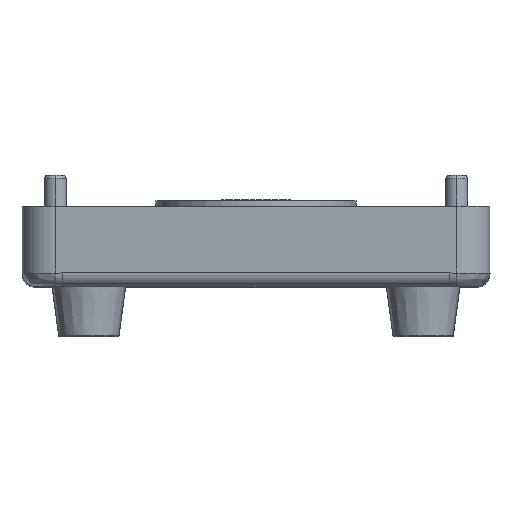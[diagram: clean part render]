
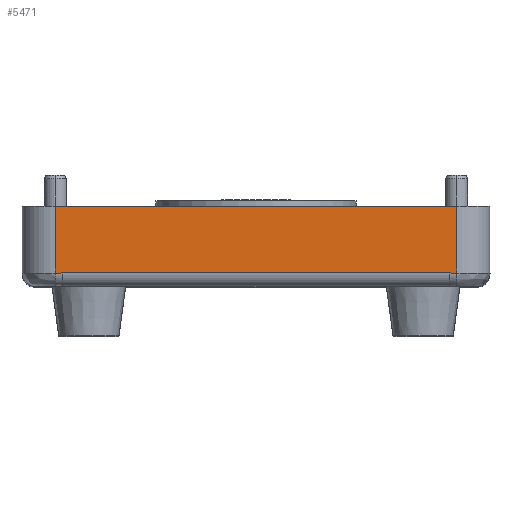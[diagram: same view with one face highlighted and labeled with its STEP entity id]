
A CAD part, top view. The second image highlights one B-rep face of the part: STEP entity #5471.
In plain terms, the highlighted planar face has unit normal (0, 0, 1).
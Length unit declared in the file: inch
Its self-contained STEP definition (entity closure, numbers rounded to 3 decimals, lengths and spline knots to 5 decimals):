
#53 = VERTEX_POINT ( 'NONE', #968 ) ;
#707 = CARTESIAN_POINT ( 'NONE',  ( 1.5, -0.2055, 0. ) ) ;
#968 = CARTESIAN_POINT ( 'NONE',  ( 1.5, 0.295, 0. ) ) ;
#1192 = CARTESIAN_POINT ( 'NONE',  ( -1.5, -0.2055, 0. ) ) ;
#1705 = LINE ( 'NONE', #10496, #2299 ) ;
#1809 = CARTESIAN_POINT ( 'NONE',  ( 0., 0.295, 0. ) ) ;
#2299 = VECTOR ( 'NONE', #28189, 39.37008 ) ;
#2719 = VECTOR ( 'NONE', #9980, 39.37008 ) ;
#3030 = CARTESIAN_POINT ( 'NONE',  ( 1.48144, -0.2054, 0. ) ) ;
#3847 = ORIENTED_EDGE ( 'NONE', *, *, #11196, .F. ) ;
#4001 = VERTEX_POINT ( 'NONE', #4010 ) ;
#4010 = CARTESIAN_POINT ( 'NONE',  ( -1.5, 0.295, 0. ) ) ;
#4037 = CARTESIAN_POINT ( 'NONE',  ( 1.4768, -0.20534, 0. ) ) ;
#4293 = EDGE_CURVE ( 'NONE', #4001, #53, #19117, .T. ) ;
#4506 = VECTOR ( 'NONE', #13169, 39.37008 ) ;
#5471 = ADVANCED_FACE ( 'NONE', ( #13515 ), #22382, .T. ) ;
#5612 = DIRECTION ( 'NONE',  ( 0., 0., 1. ) ) ;
#6589 = CARTESIAN_POINT ( 'NONE',  ( -1.46288, -0.20515, 0. ) ) ;
#6696 = VERTEX_POINT ( 'NONE', #1192 ) ;
#8340 = ORIENTED_EDGE ( 'NONE', *, *, #4293, .F. ) ;
#8595 = CARTESIAN_POINT ( 'NONE',  ( -1.4536, -0.205, 0. ) ) ;
#8874 = CARTESIAN_POINT ( 'NONE',  ( -1.4768, -0.20534, 0. ) ) ;
#8924 = DIRECTION ( 'NONE',  ( 1., 0., 0. ) ) ;
#9688 = LINE ( 'NONE', #25027, #2719 ) ;
#9743 = B_SPLINE_CURVE_WITH_KNOTS ( 'NONE', 3,
 ( #707, #14254, #23126, #3030, #4037, #23558, #17323, #12961 ),
 .UNSPECIFIED., .F., .F.,
 ( 4, 2, 2, 4 ),
 ( 0., 0.25, 0.5, 1. ),
 .UNSPECIFIED. ) ;
#9980 = DIRECTION ( 'NONE',  ( 0., -1., 0. ) ) ;
#10125 = EDGE_CURVE ( 'NONE', #26004, #53, #1705, .T. ) ;
#10201 = DIRECTION ( 'NONE',  ( 1., 0., 0. ) ) ;
#10496 = CARTESIAN_POINT ( 'NONE',  ( 1.5, 0.04475, 0. ) ) ;
#10588 = ORIENTED_EDGE ( 'NONE', *, *, #11784, .F. ) ;
#10755 = CARTESIAN_POINT ( 'NONE',  ( -1.44432, -0.205, 0. ) ) ;
#11026 = CARTESIAN_POINT ( 'NONE',  ( -1.49536, -0.2055, 0. ) ) ;
#11196 = EDGE_CURVE ( 'NONE', #25674, #6696, #21560, .T. ) ;
#11682 = CARTESIAN_POINT ( 'NONE',  ( 1.5, -0.2055, 0. ) ) ;
#11784 = EDGE_CURVE ( 'NONE', #26004, #26214, #9743, .T. ) ;
#12476 = ORIENTED_EDGE ( 'NONE', *, *, #12639, .T. ) ;
#12639 = EDGE_CURVE ( 'NONE', #25674, #26214, #15712, .T. ) ;
#12961 = CARTESIAN_POINT ( 'NONE',  ( 1.44432, -0.205, 0. ) ) ;
#13169 = DIRECTION ( 'NONE',  ( 1., 0., 0. ) ) ;
#13515 = FACE_OUTER_BOUND ( 'NONE', #18709, .T. ) ;
#13975 = ORIENTED_EDGE ( 'NONE', *, *, #22996, .T. ) ;
#14254 = CARTESIAN_POINT ( 'NONE',  ( 1.49536, -0.2055, 0. ) ) ;
#15712 = LINE ( 'NONE', #27157, #24885 ) ;
#17323 = CARTESIAN_POINT ( 'NONE',  ( 1.4536, -0.205, 0. ) ) ;
#18709 = EDGE_LOOP ( 'NONE', ( #24219, #8340, #13975, #3847, #12476, #10588 ) ) ;
#19117 = LINE ( 'NONE', #1809, #4506 ) ;
#21067 = CARTESIAN_POINT ( 'NONE',  ( -1.48144, -0.2054, 0. ) ) ;
#21560 = B_SPLINE_CURVE_WITH_KNOTS ( 'NONE', 3,
 ( #10755, #8595, #6589, #8874, #21067, #26227, #11026, #28445 ),
 .UNSPECIFIED., .F., .F.,
 ( 4, 2, 2, 4 ),
 ( 0., 0.5, 0.75, 1. ),
 .UNSPECIFIED. ) ;
#21643 = AXIS2_PLACEMENT_3D ( 'NONE', #23528, #5612, #10201 ) ;
#22382 = PLANE ( 'NONE',  #21643 ) ;
#22996 = EDGE_CURVE ( 'NONE', #4001, #6696, #9688, .T. ) ;
#23126 = CARTESIAN_POINT ( 'NONE',  ( 1.49072, -0.20548, 0. ) ) ;
#23528 = CARTESIAN_POINT ( 'NONE',  ( -1.5, -0.2085, 0. ) ) ;
#23558 = CARTESIAN_POINT ( 'NONE',  ( 1.46288, -0.20515, 0. ) ) ;
#23564 = CARTESIAN_POINT ( 'NONE',  ( -1.44432, -0.205, 0. ) ) ;
#24219 = ORIENTED_EDGE ( 'NONE', *, *, #10125, .T. ) ;
#24885 = VECTOR ( 'NONE', #8924, 39.37008 ) ;
#25027 = CARTESIAN_POINT ( 'NONE',  ( -1.5, 0.04325, 0. ) ) ;
#25674 = VERTEX_POINT ( 'NONE', #23564 ) ;
#26004 = VERTEX_POINT ( 'NONE', #11682 ) ;
#26214 = VERTEX_POINT ( 'NONE', #26314 ) ;
#26227 = CARTESIAN_POINT ( 'NONE',  ( -1.49072, -0.20548, 0. ) ) ;
#26314 = CARTESIAN_POINT ( 'NONE',  ( 1.44432, -0.205, 0. ) ) ;
#27157 = CARTESIAN_POINT ( 'NONE',  ( 0., -0.205, 0. ) ) ;
#28189 = DIRECTION ( 'NONE',  ( 0., 1., 0. ) ) ;
#28445 = CARTESIAN_POINT ( 'NONE',  ( -1.5, -0.2055, 0. ) ) ;
